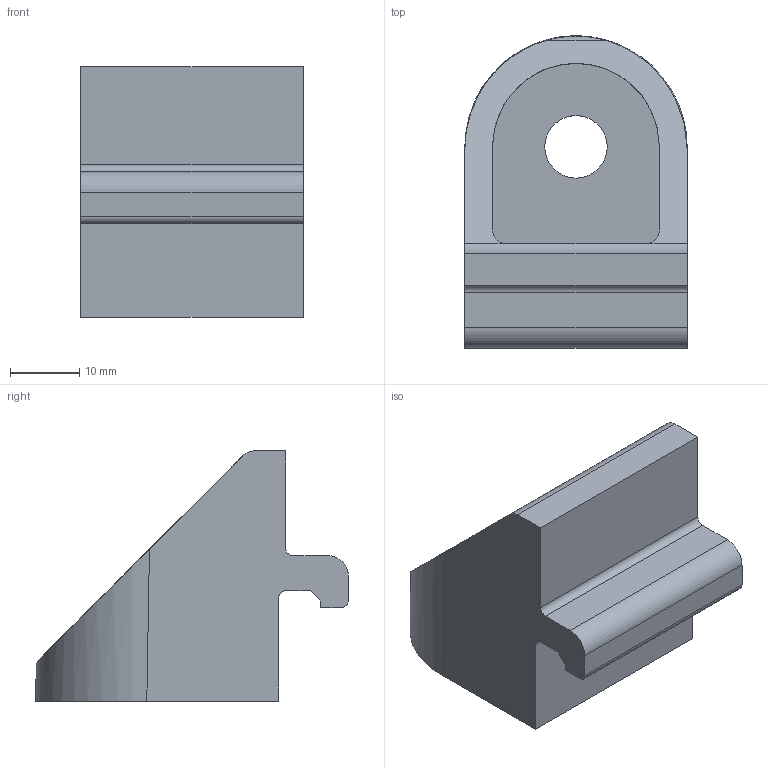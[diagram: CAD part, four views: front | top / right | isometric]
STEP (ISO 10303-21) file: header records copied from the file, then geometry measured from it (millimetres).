
FILE_DESCRIPTION (( 'STEP AP203' ), '1' );
FILE_NAME ('0108KW.STEP', '2024-09-04T09:06:50', ( 'Windows-Benutzer' ), ( '' ), 'SwSTEP 2.0', 'SolidWorks 2024', '' );
FILE_SCHEMA (( 'CONFIG_CONTROL_DESIGN' ));
Length unit declared in the file: millimetre
Products named in the file (1): 0108KW
Bounding box: 32 x 45 x 36 mm (x, y, z)
Volume: 16551.6 mm3; surface area: 7475.3 mm2
Topology: 1 solids, 1 shells, 31 faces, 87 edges, 58 vertices
Faces by surface type: plane 18, cylinder 13
Entity records: 1091 total; most frequent: CARTESIAN_POINT 224, ORIENTED_EDGE 174, DIRECTION 155, EDGE_CURVE 87, VERTEX_POINT 58, VECTOR 57, LINE 57, AXIS2_PLACEMENT_3D 49
